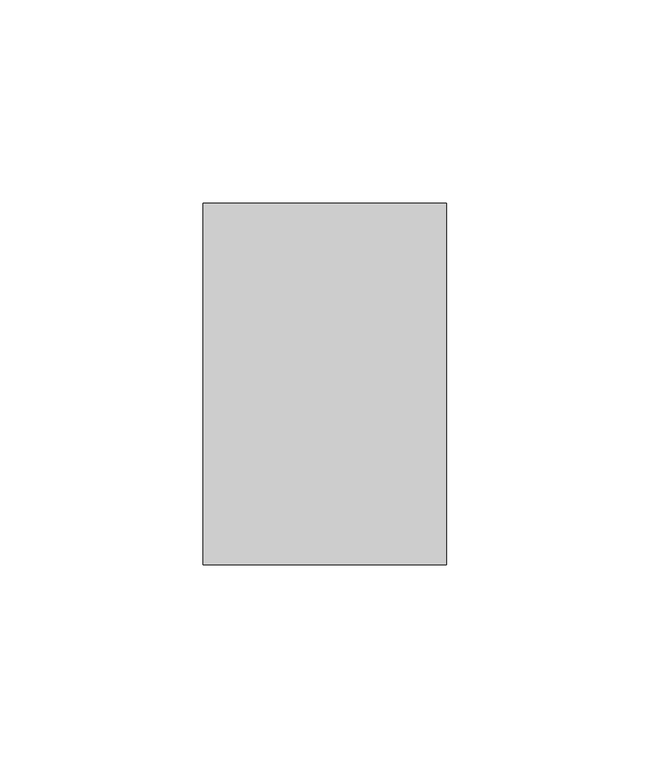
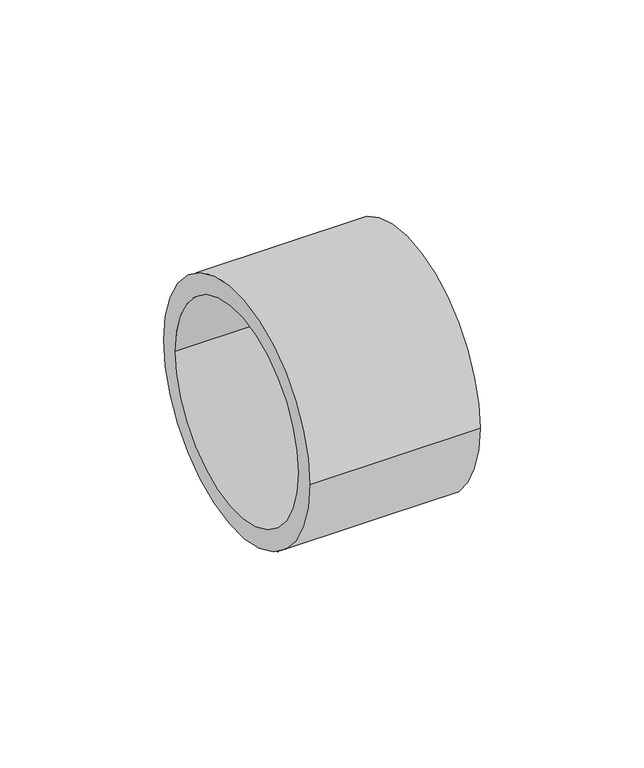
"""IFC4 building model written with IfcOpenShell, lengths in millimetres: pipe fitting geometry, NLRS_52_PIF_UN_PE elektrolasmof_geb : DN40-150 / ø40-160."""

from ifc_helpers import new_model, si_unit, point, frame, origin, origin_2d, place, context, project, spatial, circle_curve, trimmed, segment, composite_curve, outline, extrude, source, transform, mapped, element, save


def pipe_fitting_8499a61f(model_context):
    return source(origin(), model_context, "Body", "SweptSolid", [
        extrude(outline(composite_curve([segment(trimmed(circle_curve(origin_2d(), 44.5), [point((-44.5, 0.0))], [point((44.5, 0.0))], False, "CARTESIAN"), True, "CONTINUOUS"), segment(trimmed(circle_curve(origin_2d(), 44.5), [point((44.5, 0.0))], [point((-44.5, 0.0))], False, "CARTESIAN"), True, "CONTINUOUS")], self_intersect=False), holes=[composite_curve([segment(trimmed(circle_curve(origin_2d(), 37.5), [point((-37.5, 0.0))], [point((37.5, 0.0))], True, "CARTESIAN"), True, "CONTINUOUS"), segment(trimmed(circle_curve(origin_2d(), 37.5), [point((37.5, 0.0))], [point((-37.5, 0.0))], True, "CARTESIAN"), True, "CONTINUOUS")], self_intersect=False)]), frame((-30.0, 0.0, 0.0), z_axis=(1.0, 0.0, 0.0), x_axis=(0.0, 1.0, 0.0)), (0.0, 0.0, 1.0), 60.0),
    ])


if __name__ == "__main__":
    model = new_model("IFC4")
    model_context = context("Model", 3, world=origin())
    ifc_project = project(units=[si_unit("LENGTHUNIT", "METRE", prefix="MILLI")], contexts=[model_context])
    site = spatial("IfcSite", under=ifc_project)
    building = spatial("IfcBuilding", under=site)
    placement = place(None, origin())
    pipe_fitting_shape = pipe_fitting_8499a61f(model_context)
    element("IfcPipeFitting", 1, ObjectType="NLRS_52_PIF_UN_PE elektrolasmof_geb : DN40-150 / ø40-160", at=placement, inside=building, context=model_context, shape_type="MappedRepresentation", body=[
        mapped(pipe_fitting_shape, transform((0.0, 0.0, 0.0), x_axis=(1.0, 0.0, 0.0), y_axis=(0.0, 1.0, 0.0), z_axis=(0.0, 0.0, 1.0))),
    ])
    save(model, "model.ifc")
